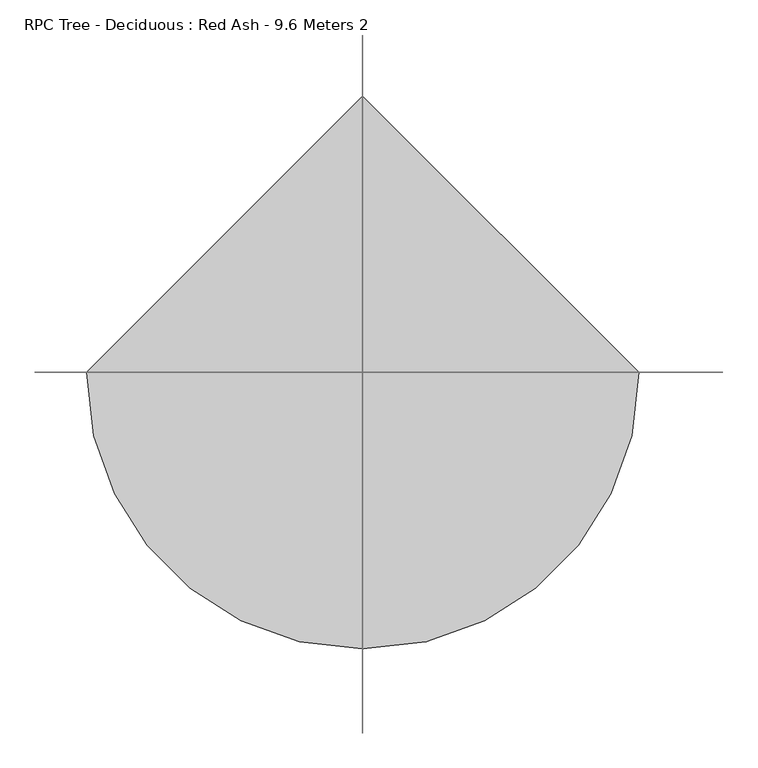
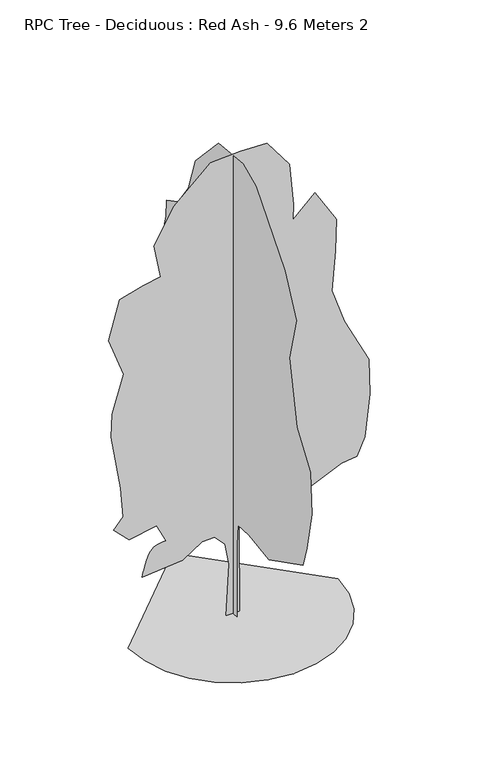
"""IFC4 building model written with IfcOpenShell, lengths in millimetres: geographic element geometry, RPC Tree - Deciduous : Red Ash - 9.6 Meters 2."""

from ifc_helpers import new_model, si_unit, origin, place, context, project, spatial, triangles, source, transform, mapped, element, save


def rpc_tree_deciduous_red_ash_9_6_meters_2_bacbc33b(model_context):
    return source(origin(), model_context, "Body", "Tessellation", [
        triangles([(-2072.3812077, 0.0, 7.79e-05), (-2017.5938541, -474.8527379, 7.79e-05), (-1861.5615177, -910.9289909, 7.79e-05), (-1616.7766045, -1295.7347179, 7.79e-05), (-1295.7348633, -1616.7768951, 7.79e-05), (-910.9287729, -1861.5610817, 7.79e-05), (-474.8525199, -2017.5938541, 7.79e-05), (9.06e-05, -2072.3812077, 7.79e-05), (474.8527742, -2017.5939995, 7.79e-05), (910.9290636, -1861.5613724, 7.79e-05), (1295.7348633, -1616.7766045, 7.79e-05), (1616.7771858, -1295.7348633, 7.79e-05), (1861.561227, -910.9287003, 7.79e-05), (2017.5938541, -474.8524109, 7.79e-05), (2072.3812077, 0.0001812, 7.79e-05), (-0.0002718, 2072.3812077, 7.79e-05), (-1.35e-05, -129.570089, 0.0), (3.15e-05, -127.5549231, 1504.95), (4.07e-05, -163.6308188, 1937.3895927), (8e-07, -552.850884, 1963.0431141), (-7.28e-05, -1230.0991894, 1862.4338482), (-0.000177, -2398.3530258, 2455.0263107), (-0.000178, -2533.8028976, 2895.2381035), (-0.0001715, -2703.1149467, 3707.9361717), (-0.0001409, -2652.3218262, 4554.4969986), (-7.32e-05, -2192.6072994, 5217.0298141), (-7e-06, -1924.2816719, 6501.5874527), (-4.4e-06, -2161.3167675, 7415.8729248), (6.04e-05, -1771.899258, 8228.570993), (0.0001977, -789.8889227, 9396.8252655), (0.0002501, -344.1898559, 9597.7252121), (0.0003354, 496.8839149, 9515.344194), (0.0003932, 1292.6511852, 8668.7830765), (0.0003967, 1529.6884609, 7957.6718307), (0.0004187, 1885.2426304, 7449.7353928), (0.0004532, 2274.6621746, 7246.5611664), (0.0004449, 2291.5934086, 6907.9364868), (0.0004439, 2393.1808125, 6518.518396), (0.0004126, 2223.868618, 6061.3759506), (0.0004154, 2376.2495785, 5621.1644485), (0.0004131, 2528.6305389, 5011.6406067), (0.0004045, 2494.7683617, 4842.3279762), (0.0003624, 2206.9376747, 4435.9786514), (0.0003439, 2188.7389309, 3877.2485115), (0.0003316, 2173.0749161, 3521.6928886), (0.0003203, 2190.0062954, 3081.4816772), (0.0003039, 2206.9378201, 2471.9581261), (0.0002736, 1969.9005444, 2285.714407), (0.0002277, 1529.6890423, 2285.714407), (0.0002302, 1732.8637047, 1659.2594765), (0.0002161, 1698.8915051, 1303.7914936), (0.0001911, 1389.6454102, 1546.8805801), (0.0001243, 793.0238331, 1394.2772495), (0.0001235, 695.070001, 1709.6831429), (7.92e-05, 272.0160818, 1705.830035), (6.33e-05, 164.7889604, 1547.5081581), (4.12e-05, 100.2196276, 1030.9079321), (1.47e-05, 141.3115144, 1.61e-05), (-139.6798371, 6.1e-06, 5.62e-05), (-84.045951, -0.0001215, 1050.080817), (-162.906826, -0.0001713, 1496.6217293), (-366.3469337, -0.000189, 1720.0852695), (-609.3057956, -0.0001774, 1711.7434822), (-1003.1720524, -0.0001297, 1456.0848141), (-1798.9391773, -8.69e-05, 1388.3601688), (-1787.9315643, -9.26e-05, 1432.1444149), (-1776.1832989, -9.85e-05, 1477.4095299), (-1762.9543098, -0.0001048, 1525.636092), (-1747.5039448, -0.0001118, 1578.3059875), (-1729.0921326, -0.0001196, 1636.8979053), (-1706.9779301, -0.0001284, 1702.8956211), (-1680.4209755, -0.0001385, 1777.7778236), (-1646.9535416, -0.0001482, 1847.2305611), (-1605.4893574, -0.0001561, 1898.0241177), (-1557.3611904, -0.0001624, 1933.2681873), (-1503.9018082, -0.0001674, 1956.0740627), (-1446.4444141, -0.0001716, 1969.5495483), (-1386.3210491, -0.0001751, 1976.8057915), (-1324.865062, -0.0001782, 1980.9523407), (-1511.1081997, -0.0002145, 2353.4391975), (-2052.9075417, -0.0001787, 2251.8517937), (-2357.6688812, -0.0002017, 2556.614296), (-2171.4255981, -0.0002361, 2776.720047), (-2222.2191547, -0.0003065, 3386.2438889), (-2408.4624378, -0.0004336, 4520.6348213), (-2391.7868568, -0.0004904, 4990.4448074), (-2166.8251522, -0.0005906, 5749.0717575), (-2459.2562851, -0.0006736, 6552.3802826), (-2239.150098, -0.0007761, 7331.2170456), (-1782.007798, -0.0008122, 7466.6663361), (-1434.221323, -0.0008347, 7528.0160797), (-1561.9021923, -0.0009106, 8211.6400497), (-1172.4838835, -0.0010104, 8905.8203522), (-444.4413311, -0.0011209, 9566.1381866), (148.1507772, -0.0011509, 9600.0000732), (673.0188761, -0.0011718, 9583.0679672), (1113.2305235, -0.0011204, 8990.4762314), (1194.1695511, -0.0010205, 8122.8570969), (1182.5472954, -0.0009821, 7804.6864014), (1621.1667435, -0.0010498, 8211.6400497), (2044.4473022, -0.0009855, 7517.4597473), (2027.5162136, -0.0009066, 6861.7445389), (1952.0724174, -0.0008063, 6048.0657166), (2196.8282627, -0.0007318, 5333.3331802), (2685.6869408, -0.0006384, 4370.6431046), (2701.272908, -0.0005525, 3644.4842308), (2603.1774422, -0.0004448, 2776.7197563), (2450.7963364, -0.0003958, 2421.1639881), (2146.0344154, -0.0003784, 2387.3016655), (1553.4420982, -0.0003202, 2116.4020672), (1028.5739176, -0.0002529, 1743.9153557), (324.3799095, -0.0002582, 2046.7009438), (117.2294451, -0.0002225, 1823.7918755), (131.219198, -5.7e-06, 4.43e-05)], [[15, 16, 1], [14, 15, 1], [14, 1, 2], [13, 14, 2], [13, 2, 3], [13, 3, 4], [12, 13, 4], [11, 12, 4], [11, 4, 5], [11, 5, 6], [11, 6, 7], [11, 7, 8], [11, 8, 9], [11, 9, 10], [50, 51, 52], [57, 58, 17], [57, 17, 18], [56, 57, 18], [56, 18, 19], [55, 56, 19], [49, 50, 52], [52, 53, 54], [49, 52, 54], [35, 36, 37], [46, 47, 48], [46, 48, 49], [21, 22, 23], [20, 21, 23], [20, 23, 24], [20, 24, 25], [20, 25, 26], [19, 20, 26], [19, 26, 27], [45, 46, 49], [31, 32, 33], [30, 31, 33], [29, 30, 33], [29, 33, 34], [28, 29, 34], [27, 28, 34], [19, 27, 34], [19, 34, 35], [19, 35, 37], [19, 37, 38], [19, 38, 39], [19, 39, 40], [19, 40, 41], [19, 41, 42], [19, 42, 43], [19, 43, 44], [19, 44, 45], [19, 45, 49], [19, 49, 54], [55, 19, 54], [64, 65, 66], [64, 66, 67], [64, 67, 68], [99, 100, 101], [64, 68, 69], [64, 69, 70], [64, 70, 71], [114, 59, 60], [113, 114, 60], [113, 60, 61], [113, 61, 62], [64, 71, 72], [64, 72, 73], [64, 73, 74], [64, 74, 75], [64, 75, 76], [64, 76, 77], [64, 77, 78], [64, 78, 79], [63, 64, 79], [81, 82, 83], [80, 81, 83], [99, 101, 102], [107, 108, 109], [110, 111, 112], [88, 89, 90], [87, 88, 90], [87, 90, 91], [80, 83, 84], [95, 96, 97], [95, 97, 98], [94, 95, 98], [93, 94, 98], [92, 93, 98], [91, 92, 98], [91, 98, 99], [87, 91, 99], [87, 99, 102], [87, 102, 103], [87, 103, 104], [86, 87, 104], [85, 86, 104], [84, 85, 104], [80, 84, 104], [80, 104, 105], [80, 105, 106], [80, 106, 107], [80, 107, 109], [80, 109, 110], [80, 110, 112], [79, 80, 112], [63, 79, 112], [62, 63, 112], [113, 62, 112]], closed=False),
    ])


if __name__ == "__main__":
    model = new_model("IFC4")
    model_context = context("Model", 3, world=origin())
    ifc_project = project(units=[si_unit("LENGTHUNIT", "METRE", prefix="MILLI")], contexts=[model_context])
    site = spatial("IfcSite", under=ifc_project)
    building = spatial("IfcBuilding", under=site)
    placement = place(None, origin())
    rpc_tree_deciduous_red_ash_9_6_meters_2_shape = rpc_tree_deciduous_red_ash_9_6_meters_2_bacbc33b(model_context)
    element("IfcGeographicElement", 1, ObjectType="RPC Tree - Deciduous : Red Ash - 9.6 Meters 2", at=placement, inside=building, context=model_context, shape_type="MappedRepresentation", body=[
        mapped(rpc_tree_deciduous_red_ash_9_6_meters_2_shape, transform((0.0, 0.0, 0.0), x_axis=(1.0, 0.0, 0.0), y_axis=(0.0, 1.0, 0.0), z_axis=(0.0, 0.0, 1.0))),
    ])
    save(model, "model.ifc")
